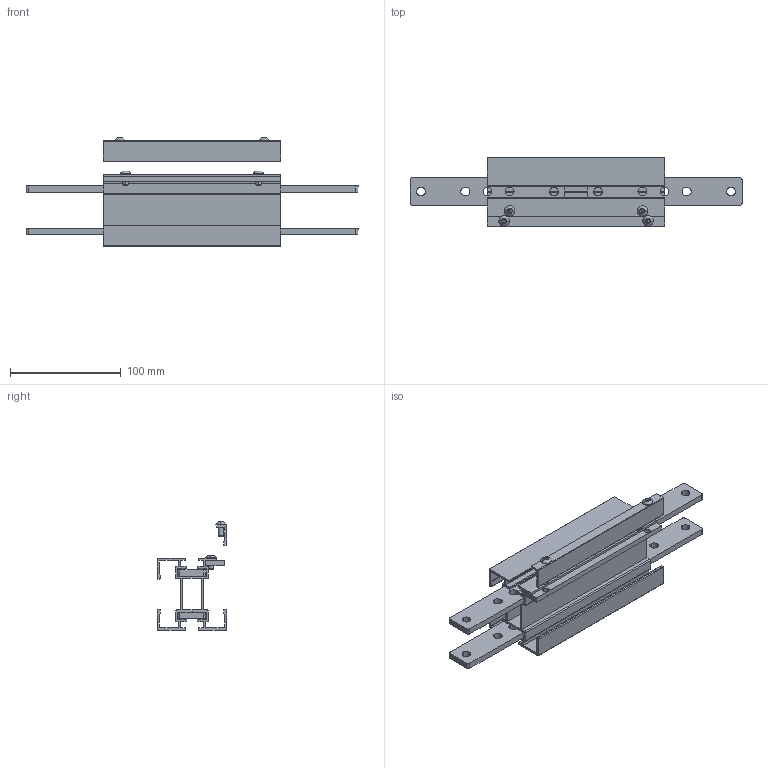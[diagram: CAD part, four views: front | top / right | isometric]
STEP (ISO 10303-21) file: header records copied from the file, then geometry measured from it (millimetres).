
FILE_DESCRIPTION (( 'STEP AP214' ), '1' );
FILE_NAME ('FSCC-160.STEP', '2012-11-15T06:04:29', ( 'gs' ), ( 'Microsoft' ), 'SwSTEP 2.0', 'SolidWorks 2012', '' );
FILE_SCHEMA (( 'AUTOMOTIVE_DESIGN' ));
Length unit declared in the file: millimetre
Products named in the file (6): FACS-25.éclisse larg 25mm; socket button head screw_iso_ISO 7380 - M5 x 10 --- 10N; cale; FSCC-poutre 2_D‚faut<Brut d''usinage>; FSCC-poutre_D‚faut<Brut d''usinage>; FSCC-160
Assembly tree (11 placements, depth 2):
  FSCC-160
    FSCC-poutre_D‚faut<Brut d''usinage>
    FSCC-poutre 2_D‚faut<Brut d''usinage>
    cale
    socket button head screw_iso_ISO 7380 - M5 x 10 --- 10N  x4
    FACS-25.éclisse larg 25mm  x4
Bounding box: 300 x 63 x 97.75 mm (x, y, z)
Volume: 210375.3 mm3; surface area: 167358.6 mm2
Topology: 11 solids, 11 shells, 350 faces, 924 edges, 596 vertices
Faces by surface type: plane 184, cylinder 134, cone 16, torus 8, sphere 8
Entity records: 7292 total; most frequent: DIRECTION 1204, CARTESIAN_POINT 1186, ORIENTED_EDGE 1160, EDGE_CURVE 580, LINE 402, VECTOR 402, AXIS2_PLACEMENT_3D 401, VERTEX_POINT 383
